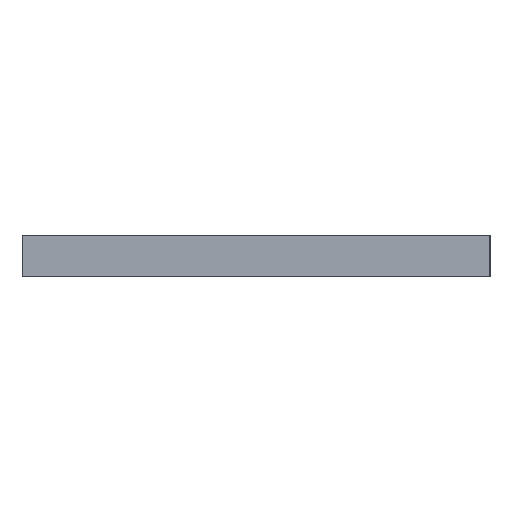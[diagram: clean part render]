
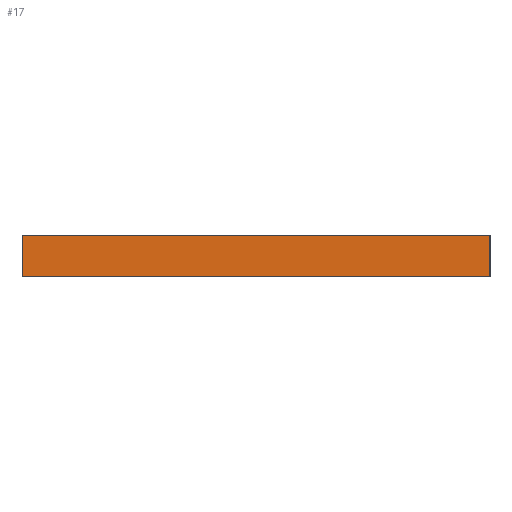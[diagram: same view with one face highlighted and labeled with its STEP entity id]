
A CAD part, left-side view. The second image highlights one B-rep face of the part: STEP entity #17.
In plain terms, the highlighted planar face has unit normal (-1, 0, 0).
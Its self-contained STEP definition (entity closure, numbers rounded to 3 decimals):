
#17 = ADVANCED_FACE('',(#18),#32,.F.);
#18 = FACE_BOUND('',#19,.T.);
#19 = EDGE_LOOP('',(#20,#55,#83,#111));
#20 = ORIENTED_EDGE('',*,*,#21,.F.);
#21 = EDGE_CURVE('',#22,#24,#26,.T.);
#22 = VERTEX_POINT('',#23);
#23 = CARTESIAN_POINT('',(-25.,45.5,149.));
#24 = VERTEX_POINT('',#25);
#25 = CARTESIAN_POINT('',(-25.,0.,149.));
#26 = SURFACE_CURVE('',#27,(#31,#43),.PCURVE_S1.);
#27 = LINE('',#28,#29);
#28 = CARTESIAN_POINT('',(-25.,10.5,149.));
#29 = VECTOR('',#30,1.);
#30 = DIRECTION('',(0.,-1.,0.));
#31 = PCURVE('',#32,#37);
#32 = PLANE('',#33);
#33 = AXIS2_PLACEMENT_3D('',#34,#35,#36);
#34 = CARTESIAN_POINT('',(-25.,10.5,145.));
#35 = DIRECTION('',(1.,0.,0.));
#36 = DIRECTION('',(0.,0.,1.));
#37 = DEFINITIONAL_REPRESENTATION('',(#38),#42);
#38 = LINE('',#39,#40);
#39 = CARTESIAN_POINT('',(4.,0.));
#40 = VECTOR('',#41,1.);
#41 = DIRECTION('',(0.,1.));
#42 = ( GEOMETRIC_REPRESENTATION_CONTEXT(2) 
PARAMETRIC_REPRESENTATION_CONTEXT() REPRESENTATION_CONTEXT('2D SPACE',''
  ) );
#43 = PCURVE('',#44,#49);
#44 = PLANE('',#45);
#45 = AXIS2_PLACEMENT_3D('',#46,#47,#48);
#46 = CARTESIAN_POINT('',(-25.,10.5,149.));
#47 = DIRECTION('',(0.,0.,1.));
#48 = DIRECTION('',(1.,0.,0.));
#49 = DEFINITIONAL_REPRESENTATION('',(#50),#54);
#50 = LINE('',#51,#52);
#51 = CARTESIAN_POINT('',(0.,0.));
#52 = VECTOR('',#53,1.);
#53 = DIRECTION('',(0.,-1.));
#54 = ( GEOMETRIC_REPRESENTATION_CONTEXT(2) 
PARAMETRIC_REPRESENTATION_CONTEXT() REPRESENTATION_CONTEXT('2D SPACE',''
  ) );
#55 = ORIENTED_EDGE('',*,*,#56,.F.);
#56 = EDGE_CURVE('',#57,#22,#59,.T.);
#57 = VERTEX_POINT('',#58);
#58 = CARTESIAN_POINT('',(-25.,45.5,145.));
#59 = SURFACE_CURVE('',#60,(#64,#71),.PCURVE_S1.);
#60 = LINE('',#61,#62);
#61 = CARTESIAN_POINT('',(-25.,45.5,145.));
#62 = VECTOR('',#63,1.);
#63 = DIRECTION('',(0.,0.,1.));
#64 = PCURVE('',#32,#65);
#65 = DEFINITIONAL_REPRESENTATION('',(#66),#70);
#66 = LINE('',#67,#68);
#67 = CARTESIAN_POINT('',(0.,-35.));
#68 = VECTOR('',#69,1.);
#69 = DIRECTION('',(1.,0.));
#70 = ( GEOMETRIC_REPRESENTATION_CONTEXT(2) 
PARAMETRIC_REPRESENTATION_CONTEXT() REPRESENTATION_CONTEXT('2D SPACE',''
  ) );
#71 = PCURVE('',#72,#77);
#72 = PLANE('',#73);
#73 = AXIS2_PLACEMENT_3D('',#74,#75,#76);
#74 = CARTESIAN_POINT('',(-25.,45.5,145.));
#75 = DIRECTION('',(0.,1.,0.));
#76 = DIRECTION('',(0.,0.,1.));
#77 = DEFINITIONAL_REPRESENTATION('',(#78),#82);
#78 = LINE('',#79,#80);
#79 = CARTESIAN_POINT('',(0.,0.));
#80 = VECTOR('',#81,1.);
#81 = DIRECTION('',(1.,0.));
#82 = ( GEOMETRIC_REPRESENTATION_CONTEXT(2) 
PARAMETRIC_REPRESENTATION_CONTEXT() REPRESENTATION_CONTEXT('2D SPACE',''
  ) );
#83 = ORIENTED_EDGE('',*,*,#84,.F.);
#84 = EDGE_CURVE('',#85,#57,#87,.T.);
#85 = VERTEX_POINT('',#86);
#86 = CARTESIAN_POINT('',(-25.,0.,145.));
#87 = SURFACE_CURVE('',#88,(#92,#99),.PCURVE_S1.);
#88 = LINE('',#89,#90);
#89 = CARTESIAN_POINT('',(-25.,10.5,145.));
#90 = VECTOR('',#91,1.);
#91 = DIRECTION('',(0.,1.,0.));
#92 = PCURVE('',#32,#93);
#93 = DEFINITIONAL_REPRESENTATION('',(#94),#98);
#94 = LINE('',#95,#96);
#95 = CARTESIAN_POINT('',(0.,0.));
#96 = VECTOR('',#97,1.);
#97 = DIRECTION('',(0.,-1.));
#98 = ( GEOMETRIC_REPRESENTATION_CONTEXT(2) 
PARAMETRIC_REPRESENTATION_CONTEXT() REPRESENTATION_CONTEXT('2D SPACE',''
  ) );
#99 = PCURVE('',#100,#105);
#100 = PLANE('',#101);
#101 = AXIS2_PLACEMENT_3D('',#102,#103,#104);
#102 = CARTESIAN_POINT('',(-25.,10.5,145.));
#103 = DIRECTION('',(0.,0.,1.));
#104 = DIRECTION('',(1.,0.,0.));
#105 = DEFINITIONAL_REPRESENTATION('',(#106),#110);
#106 = LINE('',#107,#108);
#107 = CARTESIAN_POINT('',(0.,0.));
#108 = VECTOR('',#109,1.);
#109 = DIRECTION('',(0.,1.));
#110 = ( GEOMETRIC_REPRESENTATION_CONTEXT(2) 
PARAMETRIC_REPRESENTATION_CONTEXT() REPRESENTATION_CONTEXT('2D SPACE',''
  ) );
#111 = ORIENTED_EDGE('',*,*,#112,.T.);
#112 = EDGE_CURVE('',#85,#24,#113,.T.);
#113 = SURFACE_CURVE('',#114,(#118,#125),.PCURVE_S1.);
#114 = LINE('',#115,#116);
#115 = CARTESIAN_POINT('',(-25.,0.,145.));
#116 = VECTOR('',#117,1.);
#117 = DIRECTION('',(0.,0.,1.));
#118 = PCURVE('',#32,#119);
#119 = DEFINITIONAL_REPRESENTATION('',(#120),#124);
#120 = LINE('',#121,#122);
#121 = CARTESIAN_POINT('',(0.,10.5));
#122 = VECTOR('',#123,1.);
#123 = DIRECTION('',(1.,0.));
#124 = ( GEOMETRIC_REPRESENTATION_CONTEXT(2) 
PARAMETRIC_REPRESENTATION_CONTEXT() REPRESENTATION_CONTEXT('2D SPACE',''
  ) );
#125 = PCURVE('',#126,#131);
#126 = PLANE('',#127);
#127 = AXIS2_PLACEMENT_3D('',#128,#129,#130);
#128 = CARTESIAN_POINT('',(-25.,0.,145.));
#129 = DIRECTION('',(0.,1.,0.));
#130 = DIRECTION('',(0.,0.,1.));
#131 = DEFINITIONAL_REPRESENTATION('',(#132),#136);
#132 = LINE('',#133,#134);
#133 = CARTESIAN_POINT('',(0.,0.));
#134 = VECTOR('',#135,1.);
#135 = DIRECTION('',(1.,0.));
#136 = ( GEOMETRIC_REPRESENTATION_CONTEXT(2) 
PARAMETRIC_REPRESENTATION_CONTEXT() REPRESENTATION_CONTEXT('2D SPACE',''
  ) );
